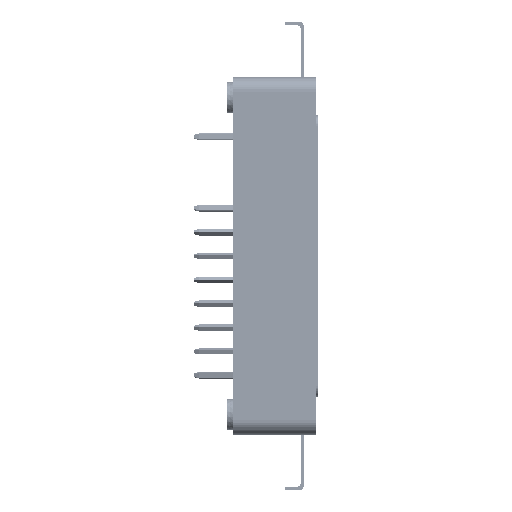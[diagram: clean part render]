
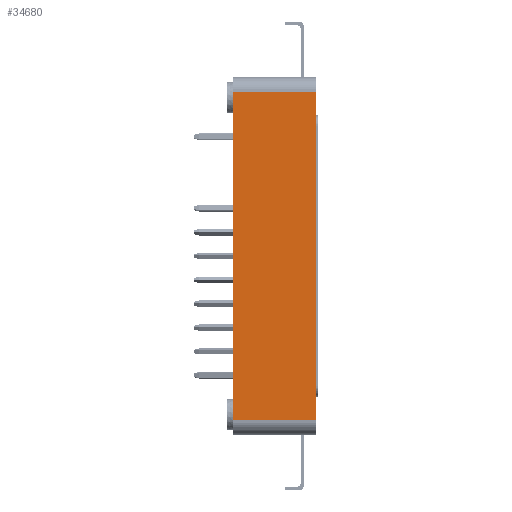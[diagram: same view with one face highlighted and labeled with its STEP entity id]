
A CAD part, left-side view. The second image highlights one B-rep face of the part: STEP entity #34680.
In plain terms, the highlighted planar face has unit normal (-1, 0, 0).
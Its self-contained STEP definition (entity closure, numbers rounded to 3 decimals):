
#17157=DIRECTION('',(0.,0.,-1.));
#17158=VECTOR('',#17157,44.);
#17159=CARTESIAN_POINT('',(-28.35,11.2,22.));
#17160=LINE('',#17159,#17158);
#17279=DIRECTION('',(0.,0.,1.));
#17280=VECTOR('',#17279,44.);
#17281=CARTESIAN_POINT('',(-28.35,0.,-22.));
#17282=LINE('',#17281,#17280);
#17459=DIRECTION('',(0.,-1.,0.));
#17460=VECTOR('',#17459,11.2);
#17461=CARTESIAN_POINT('',(-28.35,11.2,-22.));
#17462=LINE('',#17461,#17460);
#17471=DIRECTION('',(0.,1.,0.));
#17472=VECTOR('',#17471,11.2);
#17473=CARTESIAN_POINT('',(-28.35,0.,22.));
#17474=LINE('',#17473,#17472);
#30347=CARTESIAN_POINT('',(-28.35,11.2,22.));
#30348=VERTEX_POINT('',#30347);
#30349=CARTESIAN_POINT('',(-28.35,11.2,-22.));
#30350=VERTEX_POINT('',#30349);
#30407=CARTESIAN_POINT('',(-28.35,0.,-22.));
#30408=VERTEX_POINT('',#30407);
#30409=CARTESIAN_POINT('',(-28.35,0.,22.));
#30410=VERTEX_POINT('',#30409);
#34668=CARTESIAN_POINT('',(-28.35,0.,-24.));
#34669=DIRECTION('',(-1.,0.,0.));
#34670=DIRECTION('',(0.,0.,1.));
#34671=AXIS2_PLACEMENT_3D('',#34668,#34669,#34670);
#34672=PLANE('',#34671);
#34673=ORIENTED_EDGE('',*,*,#34288,.F.);
#34675=ORIENTED_EDGE('',*,*,#34674,.F.);
#34676=ORIENTED_EDGE('',*,*,#34387,.F.);
#34677=ORIENTED_EDGE('',*,*,#34660,.F.);
#34678=EDGE_LOOP('',(#34673,#34675,#34676,#34677));
#34679=FACE_OUTER_BOUND('',#34678,.F.);
#34680=ADVANCED_FACE('',(#34679),#34672,.T.);
#34288=EDGE_CURVE('',#30348,#30350,#17160,.T.);
#34387=EDGE_CURVE('',#30408,#30410,#17282,.T.);
#34660=EDGE_CURVE('',#30350,#30408,#17462,.T.);
#34674=EDGE_CURVE('',#30410,#30348,#17474,.T.);
